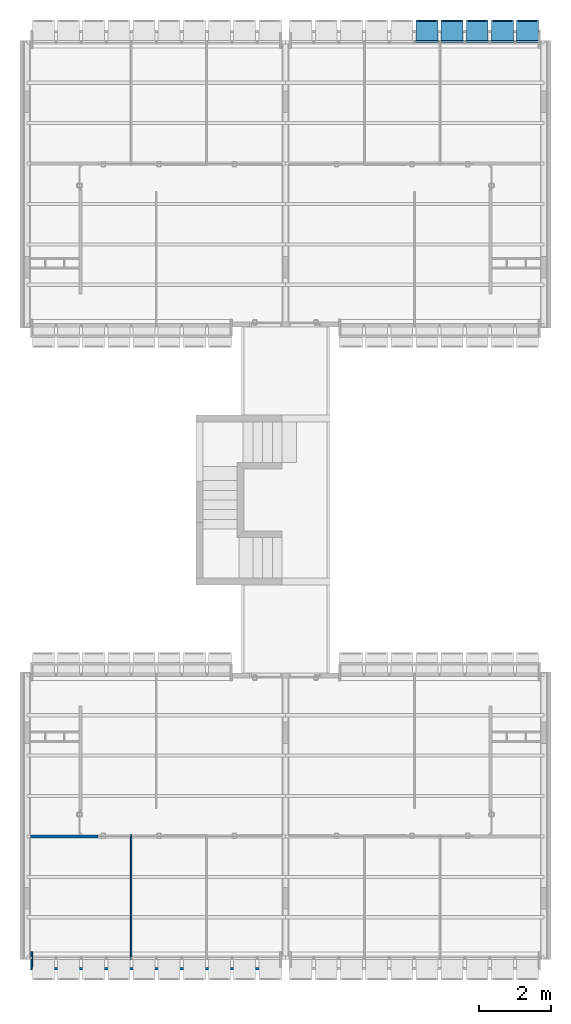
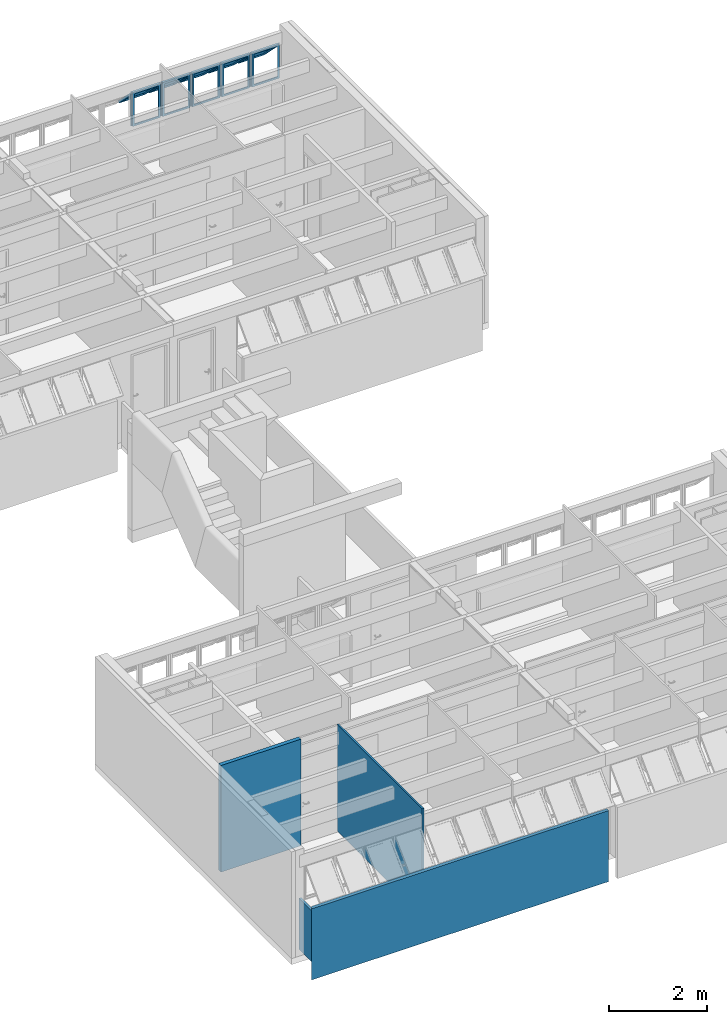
# One storey, part 17 of 40: 5 plates, 4 walls, 1 element without a shape of its own.
"""IFC4 building model written with IfcOpenShell, lengths in millimetres."""

from ifc_helpers import new_model, entity, si_unit, converted_unit, derived_unit, direction, frame, origin_with_axes, place, context, subcontext, project, spatial, line, indexed_curve, outline, extrude, polygons, source, transform, mapped, material, layer, layer_set, layer_usage, constituent, constituent_set, type_object, element, aggregate, save


model = new_model("IFC4")

# Units and contexts
model_context = context("Model", 3, precision=0.01, world=origin_with_axes(), true_north=direction((0.0, 1.0)))
body_context = subcontext(model_context, "Body", "Model", "MODEL_VIEW")
ifc_project = project(units=[si_unit("LENGTHUNIT", "METRE", prefix="MILLI"), si_unit("AREAUNIT", "SQUARE_METRE"), si_unit("VOLUMEUNIT", "CUBIC_METRE"), converted_unit("PLANEANGLEUNIT", "DEGREE", entity("IfcPlaneAngleMeasure", 0.0174532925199), si_unit("PLANEANGLEUNIT", "RADIAN"), dimensions=[0, 0, 0, 0, 0, 0, 0]), converted_unit("TIMEUNIT", "Year", entity("IfcTimeMeasure", 31556926.0), si_unit("TIMEUNIT", "SECOND"), dimensions=[0, 0, 1, 0, 0, 0, 0]), si_unit("MASSUNIT", "GRAM", prefix="KILO"), si_unit("THERMODYNAMICTEMPERATUREUNIT", "DEGREE_CELSIUS"), si_unit("LUMINOUSINTENSITYUNIT", "LUMEN"), si_unit("ENERGYUNIT", "JOULE", prefix="MEGA"), derived_unit("THERMALCONDUCTANCEUNIT", [(si_unit("POWERUNIT", "WATT"), 1), (si_unit("LENGTHUNIT", "METRE"), -1), (si_unit("THERMODYNAMICTEMPERATUREUNIT", "KELVIN"), -1)]), derived_unit("SPECIFICHEATCAPACITYUNIT", [(si_unit("ENERGYUNIT", "JOULE"), 1), (si_unit("MASSUNIT", "GRAM", prefix="KILO"), -1), (si_unit("THERMODYNAMICTEMPERATUREUNIT", "KELVIN"), -1)]), derived_unit("MASSDENSITYUNIT", [(si_unit("MASSUNIT", "GRAM", prefix="KILO"), 1), (si_unit("VOLUMEUNIT", "CUBIC_METRE"), -1)])], contexts=[model_context])

# Site, building, storey
site_placement = place(None, origin_with_axes())
site = spatial("IfcSite", under=ifc_project, at=site_placement, Name="Local", CompositionType="ELEMENT")
building_placement = place(site_placement, origin_with_axes())
building = spatial("IfcBuilding", under=site, at=building_placement, Name="Construção", CompositionType="ELEMENT")
storey_placement = place(building_placement, origin_with_axes())
storey = spatial("IfcBuildingStorey", under=building, at=storey_placement, Name="Primeiro Pavimento", CompositionType="ELEMENT", Elevation=0.0)

# Window, plates
window_type = type_object("IfcWindowType", Name="Tipo de Parede Cortina", PartitioningType="NOTDEFINED", PredefinedType="NOTDEFINED")
window_placement = place(storey_placement, frame((8520.0, 25844.9790225, 1355.02054151), z_axis=(0.0, 0.0, 1.0), x_axis=(1.0, 0.0, 0.0)))
window = element("IfcWindow", 1, at=window_placement, inside=storey, type_object=window_type, Name="APTO4-JANELA-001", PredefinedType="NOTDEFINED")
ifc_material_1 = material(Name="Alumínio")
ifc_constituent_1 = constituent(ifc_material_1, Name="Alumínio")
ifc_material_2 = material(Name="Vidro")
ifc_constituent_2 = constituent(ifc_material_2, Name="Vidro")
ifc_constituent_set_1 = constituent_set(constituents=[ifc_constituent_1, ifc_constituent_2])
plate_type = type_object("IfcPlateType", Name="Painel Principal 690 x 845 x 20", PredefinedType="CURTAIN_PANEL")
shared_shape_1 = source(origin_with_axes(), body_context, "Body", "Tessellation", [
    polygons([(25.0000036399, 0.0, -40.0), (674.999997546, 0.0, -40.0), (674.999997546, 0.0, -35.0), (25.0000036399, 0.0, -35.0), (70.0000036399, 45.0, -40.0), (629.999997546, 45.0, -40.0), (629.999997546, 45.0, -35.0), (70.0000036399, 45.0, -35.0)], [[[1, 2, 3, 4]], [[1, 5, 6, 2]], [[2, 6, 7, 3]], [[4, 3, 7, 8]], [[5, 1, 4, 8]], [[6, 5, 8, 7]]], closed=True),
    polygons([(674.999997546, 0.0, -40.0), (674.999997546, 844.999891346, -40.0), (674.999997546, 844.999891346, -35.0), (674.999997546, 0.0, -35.0), (629.999997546, 45.0, -40.0), (629.999997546, 799.999891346, -40.0), (629.999997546, 799.999891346, -35.0), (629.999997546, 45.0, -35.0)], [[[1, 2, 3, 4]], [[1, 5, 6, 2]], [[2, 6, 7, 3]], [[4, 3, 7, 8]], [[5, 1, 4, 8]], [[6, 5, 8, 7]]], closed=True),
    polygons([(25.0000036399, 844.999891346, -40.0), (70.0000036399, 799.999891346, -40.0), (70.0000036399, 799.999891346, -35.0), (25.0000036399, 844.999891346, -35.0), (674.999997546, 844.999891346, -40.0), (629.999997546, 799.999891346, -40.0), (629.999997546, 799.999891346, -35.0), (674.999997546, 844.999891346, -35.0)], [[[1, 2, 3, 4]], [[1, 5, 6, 2]], [[2, 6, 7, 3]], [[4, 3, 7, 8]], [[5, 1, 4, 8]], [[6, 5, 8, 7]]], closed=True),
    polygons([(25.0000036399, 0.0, -40.0), (70.0000036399, 45.0, -40.0), (70.0000036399, 45.0, -35.0), (25.0000036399, 0.0, -35.0), (25.0000036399, 844.999891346, -40.0), (70.0000036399, 799.999891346, -40.0), (70.0000036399, 799.999891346, -35.0), (25.0000036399, 844.999891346, -35.0)], [[[1, 2, 3, 4]], [[1, 5, 6, 2]], [[2, 6, 7, 3]], [[4, 3, 7, 8]], [[5, 1, 4, 8]], [[6, 5, 8, 7]]], closed=True),
    polygons([(25.0000036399, 0.0, -35.0), (674.999997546, 0.0, -35.0), (674.999997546, 0.0, 15.0), (25.0000036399, 0.0, 15.0), (45.0000036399, 20.0, -35.0), (654.999997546, 20.0, -35.0), (654.999997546, 20.0, 15.0), (45.0000036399, 20.0, 15.0)], [[[1, 2, 3, 4]], [[1, 5, 6, 2]], [[2, 6, 7, 3]], [[4, 3, 7, 8]], [[5, 1, 4, 8]], [[6, 5, 8, 7]]], closed=True),
    polygons([(674.999997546, 0.0, -35.0), (674.999997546, 844.999891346, -35.0), (674.999997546, 844.999891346, 15.0), (674.999997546, 0.0, 15.0), (654.999997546, 20.0, -35.0), (654.999997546, 824.999891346, -35.0), (654.999997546, 824.999891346, 15.0), (654.999997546, 20.0, 15.0)], [[[1, 2, 3, 4]], [[1, 5, 6, 2]], [[2, 6, 7, 3]], [[4, 3, 7, 8]], [[5, 1, 4, 8]], [[6, 5, 8, 7]]], closed=True),
    polygons([(25.0000036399, 844.999891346, -35.0), (45.0000036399, 824.999891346, -35.0), (45.0000036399, 824.999891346, 15.0), (25.0000036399, 844.999891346, 15.0), (674.999997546, 844.999891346, -35.0), (654.999997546, 824.999891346, -35.0), (654.999997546, 824.999891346, 15.0), (674.999997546, 844.999891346, 15.0)], [[[1, 2, 3, 4]], [[1, 5, 6, 2]], [[2, 6, 7, 3]], [[4, 3, 7, 8]], [[5, 1, 4, 8]], [[6, 5, 8, 7]]], closed=True),
    polygons([(25.0000036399, 0.0, -35.0), (45.0000036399, 20.0, -35.0), (45.0000036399, 20.0, 15.0), (25.0000036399, 0.0, 15.0), (25.0000036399, 844.999891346, -35.0), (45.0000036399, 824.999891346, -35.0), (45.0000036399, 824.999891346, 15.0), (25.0000036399, 844.999891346, 15.0)], [[[1, 2, 3, 4]], [[1, 5, 6, 2]], [[2, 6, 7, 3]], [[4, 3, 7, 8]], [[5, 1, 4, 8]], [[6, 5, 8, 7]]], closed=True),
    polygons([(694.999995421, 0.0, -10.0), (694.999995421, 844.999891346, -10.0), (694.999995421, 844.999891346, 10.0), (694.999995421, 0.0, 10.0), (674.999997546, 0.0, -10.0), (674.999997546, 844.999891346, -10.0), (674.999997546, 844.999891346, 10.0), (674.999997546, 0.0, 10.0)], [[[1, 2, 3, 4]], [[1, 5, 6, 2]], [[2, 6, 7, 3]], [[4, 3, 7, 8]], [[5, 1, 4, 8]], [[6, 5, 8, 7]]], closed=True),
    polygons([(5.00000576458, 844.999891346, -10.0), (5.00000576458, 0.0, -10.0), (5.00000576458, 0.0, 10.0), (5.00000576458, 844.999891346, 10.0), (25.0000036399, 844.999891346, -10.0), (25.0000036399, 0.0, -10.0), (25.0000036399, 0.0, 10.0), (25.0000036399, 844.999891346, 10.0)], [[[1, 2, 3, 4]], [[1, 5, 6, 2]], [[2, 6, 7, 3]], [[4, 3, 7, 8]], [[5, 1, 4, 8]], [[6, 5, 8, 7]]], closed=True),
    polygons([(90.0000036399, 252.243475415, 517.045737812), (90.0000036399, 757.824747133, 11.4644660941), (90.0000036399, 796.715620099, 50.3553390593), (90.0000036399, 291.13434838, 555.936610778), (45.0000036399, 220.423670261, 548.865542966), (45.0000036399, 789.644552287, -20.3553390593), (45.0000036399, 828.535425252, 18.5355339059), (45.0000036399, 259.314543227, 587.756415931)], [[[1, 2, 3, 4]], [[1, 5, 6, 2]], [[2, 6, 7, 3]], [[4, 3, 7, 8]], [[5, 1, 4, 8]], [[6, 5, 8, 7]]], closed=True),
    polygons([(654.999997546, 220.423670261, 548.865542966), (654.999997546, 789.644552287, -20.3553390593), (654.999997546, 828.535425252, 18.5355339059), (654.999997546, 259.314543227, 587.756415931), (609.999997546, 252.243475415, 517.045737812), (609.999997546, 757.824747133, 11.4644660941), (609.999997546, 796.715620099, 50.3553390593), (609.999997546, 291.13434838, 555.936610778)], [[[1, 2, 3, 4]], [[1, 5, 6, 2]], [[2, 6, 7, 3]], [[4, 3, 7, 8]], [[5, 1, 4, 8]], [[6, 5, 8, 7]]], closed=True),
    polygons([(654.999997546, 220.423670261, 548.865542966), (609.999997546, 252.243475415, 517.045737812), (609.999997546, 291.13434838, 555.936610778), (654.999997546, 259.314543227, 587.756415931), (45.0000036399, 220.423670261, 548.865542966), (90.0000036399, 252.243475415, 517.045737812), (90.0000036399, 291.13434838, 555.936610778), (45.0000036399, 259.314543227, 587.756415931)], [[[1, 2, 3, 4]], [[1, 5, 6, 2]], [[2, 6, 7, 3]], [[4, 3, 7, 8]], [[5, 1, 4, 8]], [[6, 5, 8, 7]]], closed=True),
    polygons([(45.0000036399, 789.644552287, -20.3553390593), (90.0000036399, 757.824747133, 11.4644660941), (90.0000036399, 796.715620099, 50.3553390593), (45.0000036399, 828.535425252, 18.5355339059), (654.999997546, 789.644552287, -20.3553390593), (609.999997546, 757.824747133, 11.4644660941), (609.999997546, 796.715620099, 50.3553390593), (654.999997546, 828.535425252, 18.5355339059)], [[[1, 2, 3, 4]], [[1, 5, 6, 2]], [[2, 6, 7, 3]], [[4, 3, 7, 8]], [[5, 1, 4, 8]], [[6, 5, 8, 7]]], closed=True),
    polygons([(90.0000036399, 272.749572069, 537.551834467), (609.999997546, 272.749572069, 537.551834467), (609.999997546, 284.063280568, 548.865542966), (90.0000036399, 284.063280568, 548.865542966), (90.0000036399, 778.330843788, 31.9705627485), (609.999997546, 778.330843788, 31.9705627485), (609.999997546, 789.644552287, 43.2842712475), (90.0000036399, 789.644552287, 43.2842712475)], [[[1, 2, 3, 4]], [[1, 5, 6, 2]], [[2, 6, 7, 3]], [[4, 3, 7, 8]], [[5, 1, 4, 8]], [[6, 5, 8, 7]]], closed=True),
])
plate_1_placement = place(window_placement, frame((3500.0, 0.0, 422.499945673), z_axis=(0.0, 0.0, 1.0), x_axis=(1.0, 0.0, 0.0)))
plate_1 = element("IfcPlate", 2, at=plate_1_placement, type_object=plate_type, material=ifc_constituent_set_1, Name="APTO4-Painel-Prin-013", PredefinedType="CURTAIN_PANEL", context=body_context, shape_type="MappedRepresentation", body=[
    mapped(shared_shape_1, transform((350.0, 0.0, -422.499945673), x_axis=(-1.0, 0.0, 0.0), y_axis=(0.0, 0.0, 1.0), z_axis=(0.0, 1.0, 0.0))),
])
ifc_constituent_3 = constituent(ifc_material_1, Name="Alumínio")
ifc_constituent_4 = constituent(ifc_material_2, Name="Vidro")
ifc_constituent_set_2 = constituent_set(constituents=[ifc_constituent_3, ifc_constituent_4])
shared_shape_2 = source(origin_with_axes(), body_context, "Body", "Tessellation", [
    polygons([(25.0000036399, 0.0, -40.0), (674.999997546, 0.0, -40.0), (674.999997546, 0.0, -35.0), (25.0000036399, 0.0, -35.0), (70.0000036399, 45.0, -40.0), (629.999997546, 45.0, -40.0), (629.999997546, 45.0, -35.0), (70.0000036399, 45.0, -35.0)], [[[1, 2, 3, 4]], [[1, 5, 6, 2]], [[2, 6, 7, 3]], [[4, 3, 7, 8]], [[5, 1, 4, 8]], [[6, 5, 8, 7]]], closed=True),
    polygons([(674.999997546, 0.0, -40.0), (674.999997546, 844.999891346, -40.0), (674.999997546, 844.999891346, -35.0), (674.999997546, 0.0, -35.0), (629.999997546, 45.0, -40.0), (629.999997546, 799.999891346, -40.0), (629.999997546, 799.999891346, -35.0), (629.999997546, 45.0, -35.0)], [[[1, 2, 3, 4]], [[1, 5, 6, 2]], [[2, 6, 7, 3]], [[4, 3, 7, 8]], [[5, 1, 4, 8]], [[6, 5, 8, 7]]], closed=True),
    polygons([(25.0000036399, 844.999891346, -40.0), (70.0000036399, 799.999891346, -40.0), (70.0000036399, 799.999891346, -35.0), (25.0000036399, 844.999891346, -35.0), (674.999997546, 844.999891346, -40.0), (629.999997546, 799.999891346, -40.0), (629.999997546, 799.999891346, -35.0), (674.999997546, 844.999891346, -35.0)], [[[1, 2, 3, 4]], [[1, 5, 6, 2]], [[2, 6, 7, 3]], [[4, 3, 7, 8]], [[5, 1, 4, 8]], [[6, 5, 8, 7]]], closed=True),
    polygons([(25.0000036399, 0.0, -40.0), (70.0000036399, 45.0, -40.0), (70.0000036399, 45.0, -35.0), (25.0000036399, 0.0, -35.0), (25.0000036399, 844.999891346, -40.0), (70.0000036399, 799.999891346, -40.0), (70.0000036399, 799.999891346, -35.0), (25.0000036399, 844.999891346, -35.0)], [[[1, 2, 3, 4]], [[1, 5, 6, 2]], [[2, 6, 7, 3]], [[4, 3, 7, 8]], [[5, 1, 4, 8]], [[6, 5, 8, 7]]], closed=True),
    polygons([(25.0000036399, 0.0, -35.0), (674.999997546, 0.0, -35.0), (674.999997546, 0.0, 15.0), (25.0000036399, 0.0, 15.0), (45.0000036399, 20.0, -35.0), (654.999997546, 20.0, -35.0), (654.999997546, 20.0, 15.0), (45.0000036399, 20.0, 15.0)], [[[1, 2, 3, 4]], [[1, 5, 6, 2]], [[2, 6, 7, 3]], [[4, 3, 7, 8]], [[5, 1, 4, 8]], [[6, 5, 8, 7]]], closed=True),
    polygons([(674.999997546, 0.0, -35.0), (674.999997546, 844.999891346, -35.0), (674.999997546, 844.999891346, 15.0), (674.999997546, 0.0, 15.0), (654.999997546, 20.0, -35.0), (654.999997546, 824.999891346, -35.0), (654.999997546, 824.999891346, 15.0), (654.999997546, 20.0, 15.0)], [[[1, 2, 3, 4]], [[1, 5, 6, 2]], [[2, 6, 7, 3]], [[4, 3, 7, 8]], [[5, 1, 4, 8]], [[6, 5, 8, 7]]], closed=True),
    polygons([(25.0000036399, 844.999891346, -35.0), (45.0000036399, 824.999891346, -35.0), (45.0000036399, 824.999891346, 15.0), (25.0000036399, 844.999891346, 15.0), (674.999997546, 844.999891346, -35.0), (654.999997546, 824.999891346, -35.0), (654.999997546, 824.999891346, 15.0), (674.999997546, 844.999891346, 15.0)], [[[1, 2, 3, 4]], [[1, 5, 6, 2]], [[2, 6, 7, 3]], [[4, 3, 7, 8]], [[5, 1, 4, 8]], [[6, 5, 8, 7]]], closed=True),
    polygons([(25.0000036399, 0.0, -35.0), (45.0000036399, 20.0, -35.0), (45.0000036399, 20.0, 15.0), (25.0000036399, 0.0, 15.0), (25.0000036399, 844.999891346, -35.0), (45.0000036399, 824.999891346, -35.0), (45.0000036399, 824.999891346, 15.0), (25.0000036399, 844.999891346, 15.0)], [[[1, 2, 3, 4]], [[1, 5, 6, 2]], [[2, 6, 7, 3]], [[4, 3, 7, 8]], [[5, 1, 4, 8]], [[6, 5, 8, 7]]], closed=True),
    polygons([(694.999995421, 0.0, -10.0), (694.999995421, 844.999891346, -10.0), (694.999995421, 844.999891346, 10.0), (694.999995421, 0.0, 10.0), (674.999997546, 0.0, -10.0), (674.999997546, 844.999891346, -10.0), (674.999997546, 844.999891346, 10.0), (674.999997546, 0.0, 10.0)], [[[1, 2, 3, 4]], [[1, 5, 6, 2]], [[2, 6, 7, 3]], [[4, 3, 7, 8]], [[5, 1, 4, 8]], [[6, 5, 8, 7]]], closed=True),
    polygons([(5.00000576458, 844.999891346, -10.0), (5.00000576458, 0.0, -10.0), (5.00000576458, 0.0, 10.0), (5.00000576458, 844.999891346, 10.0), (25.0000036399, 844.999891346, -10.0), (25.0000036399, 0.0, -10.0), (25.0000036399, 0.0, 10.0), (25.0000036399, 844.999891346, 10.0)], [[[1, 2, 3, 4]], [[1, 5, 6, 2]], [[2, 6, 7, 3]], [[4, 3, 7, 8]], [[5, 1, 4, 8]], [[6, 5, 8, 7]]], closed=True),
    polygons([(90.0000036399, 252.243475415, 517.045737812), (90.0000036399, 757.824747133, 11.4644660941), (90.0000036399, 796.715620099, 50.3553390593), (90.0000036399, 291.13434838, 555.936610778), (45.0000036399, 220.423670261, 548.865542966), (45.0000036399, 789.644552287, -20.3553390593), (45.0000036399, 828.535425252, 18.5355339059), (45.0000036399, 259.314543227, 587.756415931)], [[[1, 2, 3, 4]], [[1, 5, 6, 2]], [[2, 6, 7, 3]], [[4, 3, 7, 8]], [[5, 1, 4, 8]], [[6, 5, 8, 7]]], closed=True),
    polygons([(654.999997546, 220.423670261, 548.865542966), (654.999997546, 789.644552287, -20.3553390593), (654.999997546, 828.535425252, 18.5355339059), (654.999997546, 259.314543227, 587.756415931), (609.999997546, 252.243475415, 517.045737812), (609.999997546, 757.824747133, 11.4644660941), (609.999997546, 796.715620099, 50.3553390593), (609.999997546, 291.13434838, 555.936610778)], [[[1, 2, 3, 4]], [[1, 5, 6, 2]], [[2, 6, 7, 3]], [[4, 3, 7, 8]], [[5, 1, 4, 8]], [[6, 5, 8, 7]]], closed=True),
    polygons([(654.999997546, 220.423670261, 548.865542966), (609.999997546, 252.243475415, 517.045737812), (609.999997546, 291.13434838, 555.936610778), (654.999997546, 259.314543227, 587.756415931), (45.0000036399, 220.423670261, 548.865542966), (90.0000036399, 252.243475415, 517.045737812), (90.0000036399, 291.13434838, 555.936610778), (45.0000036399, 259.314543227, 587.756415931)], [[[1, 2, 3, 4]], [[1, 5, 6, 2]], [[2, 6, 7, 3]], [[4, 3, 7, 8]], [[5, 1, 4, 8]], [[6, 5, 8, 7]]], closed=True),
    polygons([(45.0000036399, 789.644552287, -20.3553390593), (90.0000036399, 757.824747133, 11.4644660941), (90.0000036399, 796.715620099, 50.3553390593), (45.0000036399, 828.535425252, 18.5355339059), (654.999997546, 789.644552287, -20.3553390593), (609.999997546, 757.824747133, 11.4644660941), (609.999997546, 796.715620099, 50.3553390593), (654.999997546, 828.535425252, 18.5355339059)], [[[1, 2, 3, 4]], [[1, 5, 6, 2]], [[2, 6, 7, 3]], [[4, 3, 7, 8]], [[5, 1, 4, 8]], [[6, 5, 8, 7]]], closed=True),
    polygons([(90.0000036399, 272.749572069, 537.551834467), (609.999997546, 272.749572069, 537.551834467), (609.999997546, 284.063280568, 548.865542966), (90.0000036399, 284.063280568, 548.865542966), (90.0000036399, 778.330843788, 31.9705627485), (609.999997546, 778.330843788, 31.9705627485), (609.999997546, 789.644552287, 43.2842712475), (90.0000036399, 789.644552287, 43.2842712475)], [[[1, 2, 3, 4]], [[1, 5, 6, 2]], [[2, 6, 7, 3]], [[4, 3, 7, 8]], [[5, 1, 4, 8]], [[6, 5, 8, 7]]], closed=True),
])
plate_2_placement = place(window_placement, frame((5600.0, 0.0, 422.499945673), z_axis=(0.0, 0.0, 1.0), x_axis=(1.0, 0.0, 0.0)))
plate_2 = element("IfcPlate", 3, at=plate_2_placement, type_object=plate_type, material=ifc_constituent_set_2, Name="APTO4-Painel-Prin-013", PredefinedType="CURTAIN_PANEL", context=body_context, shape_type="MappedRepresentation", body=[
    mapped(shared_shape_2, transform((350.0, 0.0, -422.499945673), x_axis=(-1.0, 0.0, 0.0), y_axis=(0.0, 0.0, 1.0), z_axis=(0.0, 1.0, 0.0))),
])
ifc_constituent_5 = constituent(ifc_material_1, Name="Alumínio")
ifc_constituent_6 = constituent(ifc_material_2, Name="Vidro")
ifc_constituent_set_3 = constituent_set(constituents=[ifc_constituent_5, ifc_constituent_6])
plate_3_placement = place(window_placement, frame((4900.0, 0.0, 422.499945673), z_axis=(0.0, 0.0, 1.0), x_axis=(1.0, 0.0, 0.0)))
plate_3 = element("IfcPlate", 4, at=plate_3_placement, type_object=plate_type, material=ifc_constituent_set_3, Name="APTO4-Painel-Prin-013", PredefinedType="CURTAIN_PANEL", context=body_context, shape_type="MappedRepresentation", body=[
    mapped(shared_shape_2, transform((350.0, 0.0, -422.499945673), x_axis=(-1.0, 0.0, 0.0), y_axis=(0.0, 0.0, 1.0), z_axis=(0.0, 1.0, 0.0))),
])
ifc_constituent_7 = constituent(ifc_material_1, Name="Alumínio")
ifc_constituent_8 = constituent(ifc_material_2, Name="Vidro")
ifc_constituent_set_4 = constituent_set(constituents=[ifc_constituent_7, ifc_constituent_8])
shared_shape_3 = source(origin_with_axes(), body_context, "Body", "Tessellation", [
    polygons([(25.0000036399, 0.0, -40.0), (674.999997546, 0.0, -40.0), (674.999997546, 0.0, -35.0), (25.0000036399, 0.0, -35.0), (70.0000036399, 45.0, -40.0), (629.999997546, 45.0, -40.0), (629.999997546, 45.0, -35.0), (70.0000036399, 45.0, -35.0)], [[[1, 2, 3, 4]], [[1, 5, 6, 2]], [[2, 6, 7, 3]], [[4, 3, 7, 8]], [[5, 1, 4, 8]], [[6, 5, 8, 7]]], closed=True),
    polygons([(674.999997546, 0.0, -40.0), (674.999997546, 844.999891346, -40.0), (674.999997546, 844.999891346, -35.0), (674.999997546, 0.0, -35.0), (629.999997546, 45.0, -40.0), (629.999997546, 799.999891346, -40.0), (629.999997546, 799.999891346, -35.0), (629.999997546, 45.0, -35.0)], [[[1, 2, 3, 4]], [[1, 5, 6, 2]], [[2, 6, 7, 3]], [[4, 3, 7, 8]], [[5, 1, 4, 8]], [[6, 5, 8, 7]]], closed=True),
    polygons([(25.0000036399, 844.999891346, -40.0), (70.0000036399, 799.999891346, -40.0), (70.0000036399, 799.999891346, -35.0), (25.0000036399, 844.999891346, -35.0), (674.999997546, 844.999891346, -40.0), (629.999997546, 799.999891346, -40.0), (629.999997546, 799.999891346, -35.0), (674.999997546, 844.999891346, -35.0)], [[[1, 2, 3, 4]], [[1, 5, 6, 2]], [[2, 6, 7, 3]], [[4, 3, 7, 8]], [[5, 1, 4, 8]], [[6, 5, 8, 7]]], closed=True),
    polygons([(25.0000036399, 0.0, -40.0), (70.0000036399, 45.0, -40.0), (70.0000036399, 45.0, -35.0), (25.0000036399, 0.0, -35.0), (25.0000036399, 844.999891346, -40.0), (70.0000036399, 799.999891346, -40.0), (70.0000036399, 799.999891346, -35.0), (25.0000036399, 844.999891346, -35.0)], [[[1, 2, 3, 4]], [[1, 5, 6, 2]], [[2, 6, 7, 3]], [[4, 3, 7, 8]], [[5, 1, 4, 8]], [[6, 5, 8, 7]]], closed=True),
    polygons([(25.0000036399, 0.0, -35.0), (674.999997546, 0.0, -35.0), (674.999997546, 0.0, 15.0), (25.0000036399, 0.0, 15.0), (45.0000036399, 20.0, -35.0), (654.999997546, 20.0, -35.0), (654.999997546, 20.0, 15.0), (45.0000036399, 20.0, 15.0)], [[[1, 2, 3, 4]], [[1, 5, 6, 2]], [[2, 6, 7, 3]], [[4, 3, 7, 8]], [[5, 1, 4, 8]], [[6, 5, 8, 7]]], closed=True),
    polygons([(674.999997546, 0.0, -35.0), (674.999997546, 844.999891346, -35.0), (674.999997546, 844.999891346, 15.0), (674.999997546, 0.0, 15.0), (654.999997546, 20.0, -35.0), (654.999997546, 824.999891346, -35.0), (654.999997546, 824.999891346, 15.0), (654.999997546, 20.0, 15.0)], [[[1, 2, 3, 4]], [[1, 5, 6, 2]], [[2, 6, 7, 3]], [[4, 3, 7, 8]], [[5, 1, 4, 8]], [[6, 5, 8, 7]]], closed=True),
    polygons([(25.0000036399, 844.999891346, -35.0), (45.0000036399, 824.999891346, -35.0), (45.0000036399, 824.999891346, 15.0), (25.0000036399, 844.999891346, 15.0), (674.999997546, 844.999891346, -35.0), (654.999997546, 824.999891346, -35.0), (654.999997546, 824.999891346, 15.0), (674.999997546, 844.999891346, 15.0)], [[[1, 2, 3, 4]], [[1, 5, 6, 2]], [[2, 6, 7, 3]], [[4, 3, 7, 8]], [[5, 1, 4, 8]], [[6, 5, 8, 7]]], closed=True),
    polygons([(25.0000036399, 0.0, -35.0), (45.0000036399, 20.0, -35.0), (45.0000036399, 20.0, 15.0), (25.0000036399, 0.0, 15.0), (25.0000036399, 844.999891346, -35.0), (45.0000036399, 824.999891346, -35.0), (45.0000036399, 824.999891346, 15.0), (25.0000036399, 844.999891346, 15.0)], [[[1, 2, 3, 4]], [[1, 5, 6, 2]], [[2, 6, 7, 3]], [[4, 3, 7, 8]], [[5, 1, 4, 8]], [[6, 5, 8, 7]]], closed=True),
    polygons([(694.999995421, 0.0, -10.0), (694.999995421, 844.999891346, -10.0), (694.999995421, 844.999891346, 10.0), (694.999995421, 0.0, 10.0), (674.999997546, 0.0, -10.0), (674.999997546, 844.999891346, -10.0), (674.999997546, 844.999891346, 10.0), (674.999997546, 0.0, 10.0)], [[[1, 2, 3, 4]], [[1, 5, 6, 2]], [[2, 6, 7, 3]], [[4, 3, 7, 8]], [[5, 1, 4, 8]], [[6, 5, 8, 7]]], closed=True),
    polygons([(5.00000576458, 844.999891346, -10.0), (5.00000576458, 0.0, -10.0), (5.00000576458, 0.0, 10.0), (5.00000576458, 844.999891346, 10.0), (25.0000036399, 844.999891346, -10.0), (25.0000036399, 0.0, -10.0), (25.0000036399, 0.0, 10.0), (25.0000036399, 844.999891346, 10.0)], [[[1, 2, 3, 4]], [[1, 5, 6, 2]], [[2, 6, 7, 3]], [[4, 3, 7, 8]], [[5, 1, 4, 8]], [[6, 5, 8, 7]]], closed=True),
    polygons([(90.0000036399, 252.243475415, 517.045737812), (90.0000036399, 757.824747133, 11.4644660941), (90.0000036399, 796.715620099, 50.3553390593), (90.0000036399, 291.13434838, 555.936610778), (45.0000036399, 220.423670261, 548.865542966), (45.0000036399, 789.644552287, -20.3553390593), (45.0000036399, 828.535425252, 18.5355339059), (45.0000036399, 259.314543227, 587.756415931)], [[[1, 2, 3, 4]], [[1, 5, 6, 2]], [[2, 6, 7, 3]], [[4, 3, 7, 8]], [[5, 1, 4, 8]], [[6, 5, 8, 7]]], closed=True),
    polygons([(654.999997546, 220.423670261, 548.865542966), (654.999997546, 789.644552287, -20.3553390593), (654.999997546, 828.535425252, 18.5355339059), (654.999997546, 259.314543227, 587.756415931), (609.999997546, 252.243475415, 517.045737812), (609.999997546, 757.824747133, 11.4644660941), (609.999997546, 796.715620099, 50.3553390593), (609.999997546, 291.13434838, 555.936610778)], [[[1, 2, 3, 4]], [[1, 5, 6, 2]], [[2, 6, 7, 3]], [[4, 3, 7, 8]], [[5, 1, 4, 8]], [[6, 5, 8, 7]]], closed=True),
    polygons([(654.999997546, 220.423670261, 548.865542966), (609.999997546, 252.243475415, 517.045737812), (609.999997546, 291.13434838, 555.936610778), (654.999997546, 259.314543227, 587.756415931), (45.0000036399, 220.423670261, 548.865542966), (90.0000036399, 252.243475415, 517.045737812), (90.0000036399, 291.13434838, 555.936610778), (45.0000036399, 259.314543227, 587.756415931)], [[[1, 2, 3, 4]], [[1, 5, 6, 2]], [[2, 6, 7, 3]], [[4, 3, 7, 8]], [[5, 1, 4, 8]], [[6, 5, 8, 7]]], closed=True),
    polygons([(45.0000036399, 789.644552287, -20.3553390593), (90.0000036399, 757.824747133, 11.4644660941), (90.0000036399, 796.715620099, 50.3553390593), (45.0000036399, 828.535425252, 18.5355339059), (654.999997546, 789.644552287, -20.3553390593), (609.999997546, 757.824747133, 11.4644660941), (609.999997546, 796.715620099, 50.3553390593), (654.999997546, 828.535425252, 18.5355339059)], [[[1, 2, 3, 4]], [[1, 5, 6, 2]], [[2, 6, 7, 3]], [[4, 3, 7, 8]], [[5, 1, 4, 8]], [[6, 5, 8, 7]]], closed=True),
    polygons([(90.0000036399, 272.749572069, 537.551834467), (609.999997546, 272.749572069, 537.551834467), (609.999997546, 284.063280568, 548.865542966), (90.0000036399, 284.063280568, 548.865542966), (90.0000036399, 778.330843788, 31.9705627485), (609.999997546, 778.330843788, 31.9705627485), (609.999997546, 789.644552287, 43.2842712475), (90.0000036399, 789.644552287, 43.2842712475)], [[[1, 2, 3, 4]], [[1, 5, 6, 2]], [[2, 6, 7, 3]], [[4, 3, 7, 8]], [[5, 1, 4, 8]], [[6, 5, 8, 7]]], closed=True),
])
plate_4_placement = place(window_placement, frame((2800.0, 0.0, 422.499945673), z_axis=(0.0, 0.0, 1.0), x_axis=(1.0, 0.0, 0.0)))
plate_4 = element("IfcPlate", 5, at=plate_4_placement, type_object=plate_type, material=ifc_constituent_set_4, Name="APTO4-Painel-Prin-013", PredefinedType="CURTAIN_PANEL", context=body_context, shape_type="MappedRepresentation", body=[
    mapped(shared_shape_3, transform((350.0, 0.0, -422.499945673), x_axis=(-1.0, 0.0, 0.0), y_axis=(0.0, 0.0, 1.0), z_axis=(0.0, 1.0, 0.0))),
])
ifc_constituent_9 = constituent(ifc_material_1, Name="Alumínio")
ifc_constituent_10 = constituent(ifc_material_2, Name="Vidro")
ifc_constituent_set_5 = constituent_set(constituents=[ifc_constituent_9, ifc_constituent_10])
plate_5_placement = place(window_placement, frame((4200.0, 0.0, 422.499945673), z_axis=(0.0, 0.0, 1.0), x_axis=(1.0, 0.0, 0.0)))
plate_5 = element("IfcPlate", 6, at=plate_5_placement, type_object=plate_type, material=ifc_constituent_set_5, Name="APTO4-Painel-Prin-013", PredefinedType="CURTAIN_PANEL", context=body_context, shape_type="MappedRepresentation", body=[
    mapped(shared_shape_3, transform((350.0, 0.0, -422.499945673), x_axis=(-1.0, 0.0, 0.0), y_axis=(0.0, 0.0, 1.0), z_axis=(0.0, 1.0, 0.0))),
])
aggregate(window, [plate_2, plate_3, plate_4, plate_5, plate_1])

# Walls
ifc_material_3 = material(Name="GENÉRICO - VEDAÇÃO EXTERNA")
ifc_layer_1 = layer(ifc_material_3, 40.0, ventilated="UNKNOWN", Name="GENÉRICO - VEDAÇÃO EXTERNA")
ifc_layer_set_1 = layer_set([ifc_layer_1], Name="GENÉRICO - VEDAÇÃO EXTERNA 40")
ifc_layer_usage_1 = layer_usage(ifc_layer_set_1, "AXIS2", "NEGATIVE", 0.0)
wall_type_1 = type_object("IfcWallType", Name="GENÉRICO - VEDAÇÃO EXTERNA 40", PredefinedType="NOTDEFINED")
wall_1_placement = place(storey_placement, frame((3110.0, 3765.0, 0.0), z_axis=(0.0, 0.0, 1.0), x_axis=(0.0, -1.0, 0.0)))
element("IfcWall", 7, at=wall_1_placement, inside=storey, type_object=wall_type_1, material=ifc_layer_usage_1, Name="APTO1-PAREDE-007", PredefinedType="NOTDEFINED", context=body_context, shape_type="SweptSolid", body=[
    extrude(outline(indexed_curve([(0.0, -40.0), (3465.0, -40.0), (3465.0, 0.0), (0.0, 0.0)], segments=[line(1, 2, 3, 4, 1)])), origin_with_axes(), (0.0, 0.0, 1.0), 2650.0),
])
ifc_layer_2 = layer(ifc_material_3, 90.0, ventilated="UNKNOWN", Name="GENÉRICO - VEDAÇÃO EXTERNA")
ifc_layer_set_2 = layer_set([ifc_layer_2], Name="GENÉRICO - VEDAÇÃO EXTERNA 90")
ifc_layer_usage_2 = layer_usage(ifc_layer_set_2, "AXIS2", "NEGATIVE", 0.0)
wall_type_2 = type_object("IfcWallType", Name="GENÉRICO - VEDAÇÃO EXTERNA 90", PredefinedType="NOTDEFINED")
wall_2_placement = place(storey_placement, frame((290.0, 3765.2195667, 0.0), z_axis=(0.0, 0.0, 1.0), x_axis=(1.0, 0.0, 0.0)))
element("IfcWall", 8, at=wall_2_placement, inside=storey, type_object=wall_type_2, material=ifc_layer_usage_2, Name="APTO1-PAREDE-019", PredefinedType="NOTDEFINED", context=body_context, shape_type="SweptSolid", body=[
    extrude(outline(indexed_curve([(0.0, -90.0), (1879.99807021, -90.0), (1880.0, 0.0), (0.0, 0.0)], segments=[line(1, 2, 3, 4, 1)])), origin_with_axes(), (0.0, 0.0, 1.0), 2650.0),
])
ifc_material_4 = material(Name="Concreto Armado Moldado in Loco - Estrutural")
ifc_layer_3 = layer(ifc_material_4, 50.0, ventilated="UNKNOWN", Name="Concreto Armado Moldado in Loco - Estrutural")
ifc_layer_set_3 = layer_set([ifc_layer_3], Name="Concreto Armado Moldado in Loco - Estrutural 50")
ifc_layer_usage_3 = layer_usage(ifc_layer_set_3, "AXIS2", "NEGATIVE", 50.0)
wall_type_3 = type_object("IfcWallType", Name="Concreto Armado Moldado in Loco - Estrutural 50", PredefinedType="NOTDEFINED")
wall_3_placement = place(storey_placement, frame((300.0, 510.0, 0.0), z_axis=(0.0, 0.0, 1.0), x_axis=(0.0, -1.0, 0.0)))
element("IfcWall", 9, at=wall_3_placement, inside=storey, type_object=wall_type_3, material=ifc_layer_usage_3, Name="APTO1-PAREDE-002", PredefinedType="NOTDEFINED", context=body_context, shape_type="SweptSolid", body=[
    extrude(outline(indexed_curve([(0.0, 0.0), (510.0, 0.0), (430.0, 50.0), (0.0, 50.0)], segments=[line(1, 2, 3, 4, 1)])), origin_with_axes(), (0.0, 0.0, 1.0), 1270.0),
])
ifc_layer_4 = layer(ifc_material_4, 80.0, ventilated="UNKNOWN", Name="Concreto Armado Moldado in Loco - Estrutural")
ifc_layer_set_4 = layer_set([ifc_layer_4], Name="Concreto Armado Moldado in Loco - Estrutural 80")
ifc_layer_usage_4 = layer_usage(ifc_layer_set_4, "AXIS2", "POSITIVE", -80.0)
wall_type_4 = type_object("IfcWallType", Name="Concreto Armado Moldado in Loco - Estrutural 80", PredefinedType="NOTDEFINED")
wall_4_placement = place(storey_placement, frame((300.0, 80.0, -450.0), z_axis=(0.0, 0.0, 1.0), x_axis=(1.0, 0.0, 0.0)))
element("IfcWall", 10, at=wall_4_placement, inside=storey, type_object=wall_type_4, material=ifc_layer_usage_4, Name="APTO1-PAREDE-015", PredefinedType="NOTDEFINED", context=body_context, shape_type="SweptSolid", body=[
    extrude(outline(indexed_curve([(0.0, -80.0), (6980.0, -80.0), (6980.0, 0.0), (50.0, 0.0)], segments=[line(1, 2, 3, 4, 1)])), origin_with_axes(), (0.0, 0.0, 1.0), 1765.0),
])

save(model, "model.ifc")
